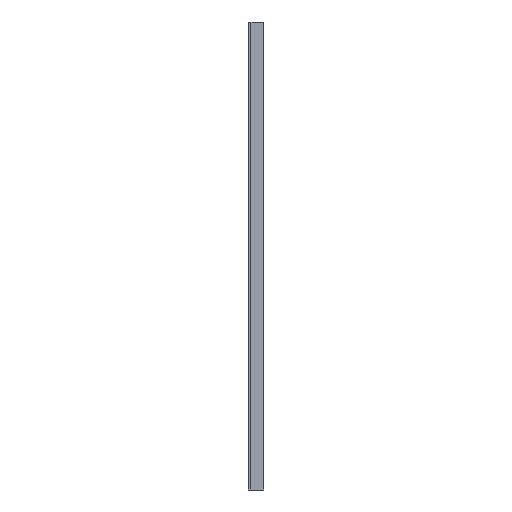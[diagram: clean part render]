
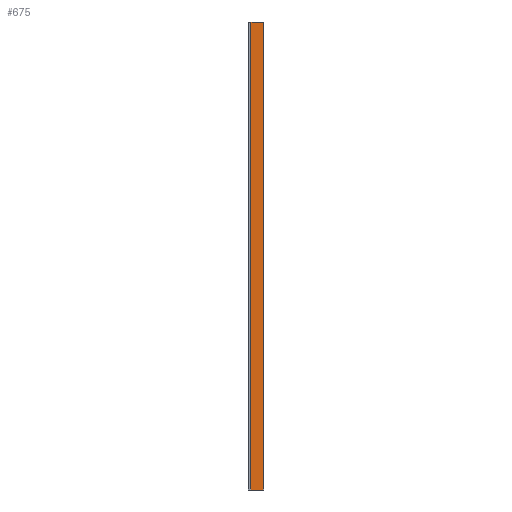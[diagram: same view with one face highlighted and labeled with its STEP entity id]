
A CAD part, left-side view. The second image highlights one B-rep face of the part: STEP entity #675.
In plain terms, the highlighted planar face has unit normal (-1, 0, 0).
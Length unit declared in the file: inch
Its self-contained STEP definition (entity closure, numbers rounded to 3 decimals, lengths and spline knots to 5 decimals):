
#39=PLANE('',#783);
#71=FACE_OUTER_BOUND('',#107,.T.);
#107=EDGE_LOOP('',(#547,#548,#549,#550));
#142=LINE('',#1074,#214);
#147=LINE('',#1089,#219);
#165=LINE('',#1132,#237);
#166=LINE('',#1134,#238);
#214=VECTOR('',#865,0.3937);
#219=VECTOR('',#880,0.3937);
#237=VECTOR('',#928,0.3937);
#238=VECTOR('',#931,0.3937);
#314=VERTEX_POINT('',#1071);
#315=VERTEX_POINT('',#1073);
#320=VERTEX_POINT('',#1088);
#330=VERTEX_POINT('',#1130);
#383=EDGE_CURVE('',#315,#314,#142,.T.);
#391=EDGE_CURVE('',#315,#320,#147,.T.);
#413=EDGE_CURVE('',#314,#330,#165,.T.);
#414=EDGE_CURVE('',#320,#330,#166,.T.);
#547=ORIENTED_EDGE('',*,*,#383,.T.);
#548=ORIENTED_EDGE('',*,*,#413,.T.);
#549=ORIENTED_EDGE('',*,*,#414,.F.);
#550=ORIENTED_EDGE('',*,*,#391,.F.);
#675=ADVANCED_FACE('',(#71),#39,.T.);
#783=AXIS2_PLACEMENT_3D('',#1133,#929,#930);
#865=DIRECTION('',(0.,-1.,0.));
#880=DIRECTION('',(0.,0.,1.));
#928=DIRECTION('',(0.,0.,1.));
#929=DIRECTION('center_axis',(-1.,0.,0.));
#930=DIRECTION('ref_axis',(0.,-1.,0.));
#931=DIRECTION('',(0.,-1.,0.));
#1071=CARTESIAN_POINT('',(-0.15,0.,0.));
#1073=CARTESIAN_POINT('',(-0.15,3.196,0.));
#1074=CARTESIAN_POINT('',(-0.15,3.196,0.));
#1088=CARTESIAN_POINT('',(-0.15,3.196,120.));
#1089=CARTESIAN_POINT('',(-0.15,3.196,0.));
#1130=CARTESIAN_POINT('',(-0.15,0.,120.));
#1132=CARTESIAN_POINT('',(-0.15,0.,0.));
#1133=CARTESIAN_POINT('Origin',(-0.15,3.196,0.));
#1134=CARTESIAN_POINT('',(-0.15,3.196,120.));
